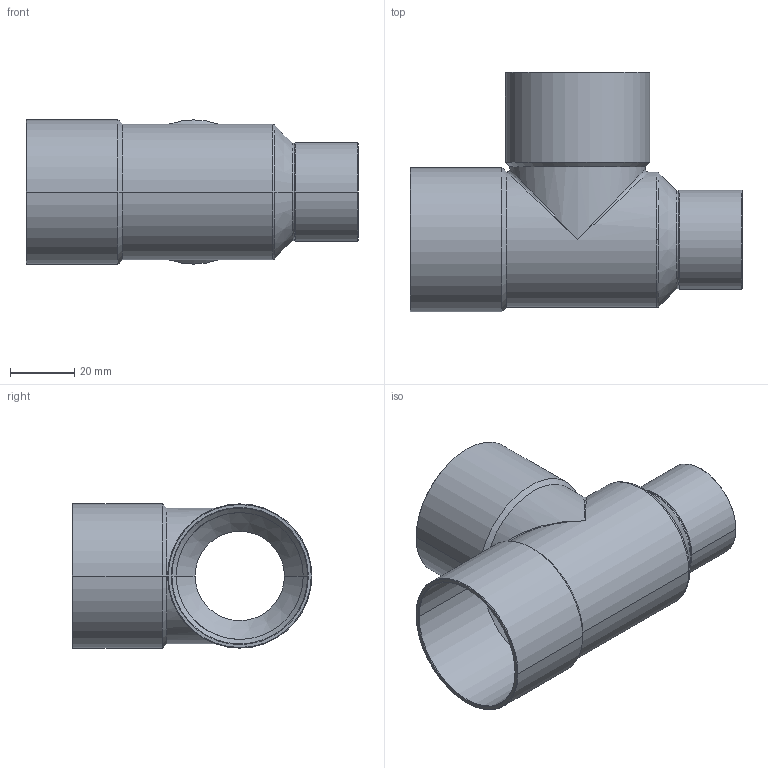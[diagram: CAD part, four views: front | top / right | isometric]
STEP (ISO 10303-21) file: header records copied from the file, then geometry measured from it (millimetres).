
FILE_DESCRIPTION((''),'2;1');
FILE_NAME('G:\Technics\CAD\Bauteile\15130\15130424228.stp','2005-11-03T13:43:11',('boden'),(''),'Autodesk Inventor 8','Autodesk Inventor 8','');
FILE_SCHEMA(('AUTOMOTIVE_DESIGN { 1 0 10303 214 1 1 1 1 }'));
Length unit declared in the file: millimetre
Products named in the file (1): 15130424228
Bounding box: 103 x 74.38 x 44.75 mm (x, y, z)
Volume: 21420.7 mm3; surface area: 33497.7 mm2
Topology: 1 solids, 1 shells, 61 faces, 142 edges, 74 vertices
Faces by surface type: cone 28, cylinder 24, bspline 4, plane 3, torus 2
Entity records: 2139 total; most frequent: CARTESIAN_POINT 754, DIRECTION 314, ORIENTED_EDGE 268, EDGE_CURVE 134, AXIS2_PLACEMENT_3D 130, VERTEX_POINT 74, CIRCLE 64, EDGE_LOOP 64
